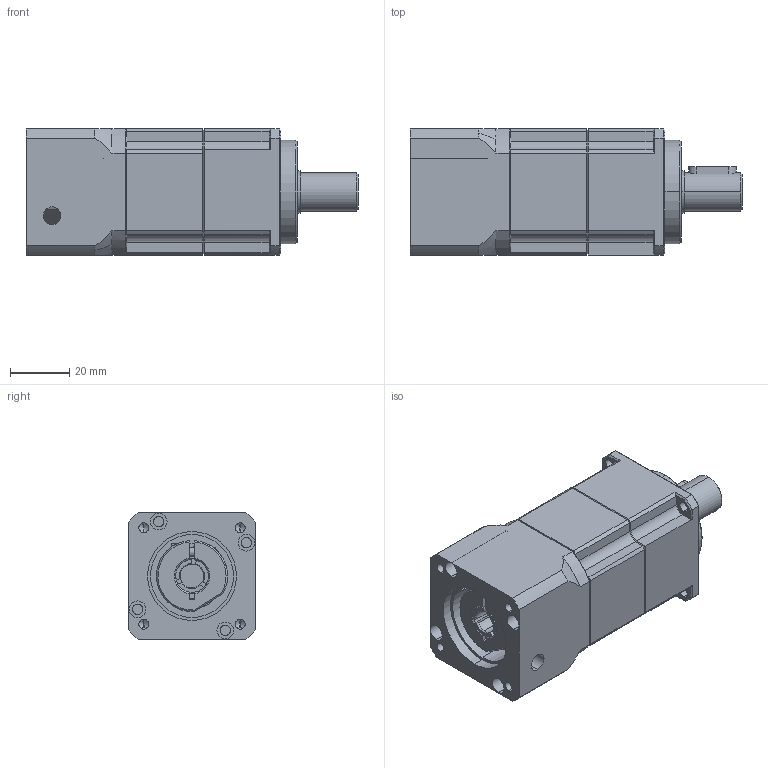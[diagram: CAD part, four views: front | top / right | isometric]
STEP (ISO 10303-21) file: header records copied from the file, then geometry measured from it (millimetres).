
FILE_DESCRIPTION (( 'STEP AP203' ), '1' );
FILE_NAME ('PD42-L2.STEP', '2018-08-22T03:23:59', ( '微软用户' ), ( '微软中国' ), 'SwSTEP 2.0', 'SolidWorks 2014', '' );
FILE_SCHEMA (( 'CONFIG_CONTROL_DESIGN' ));
Length unit declared in the file: millimetre
Products named in the file (15): 旮僱⑩粣創61902-2Z; PD42-CQ01（本体齿圈)_PD42-CQ01+CQ02; PD42-CQ01（本体齿圈); PD42-SJH(坶踡遠); 5X5X16; PD42-WZ01(帣釱)_1123; PD42-WZ01(帣釱); M3x12; PD42-L2; PD42-CLZ05(喘謫粣)
Assembly tree (7 placements, depth 2):
  旮僱⑩粣創61902-2Z
  PD42-CQ01（本体齿圈)
  PD42-SJH(坶踡遠)
  5X5X16
  PD42-WZ01(帣釱)
Bounding box: 112 x 42.6 x 42.6 mm (x, y, z)
Volume: 139510.9 mm3; surface area: 36516.6 mm2
Topology: 7 solids, 7 shells, 507 faces, 1379 edges, 892 vertices
Faces by surface type: plane 160, cylinder 157, sphere 86, cone 61, torus 43
Entity records: 20158 total; most frequent: CARTESIAN_POINT 6028, ORIENTED_EDGE 2738, DIRECTION 2679, EDGE_CURVE 1369, AXIS2_PLACEMENT_3D 1141, VERTEX_POINT 892, CIRCLE 623, EDGE_LOOP 589
